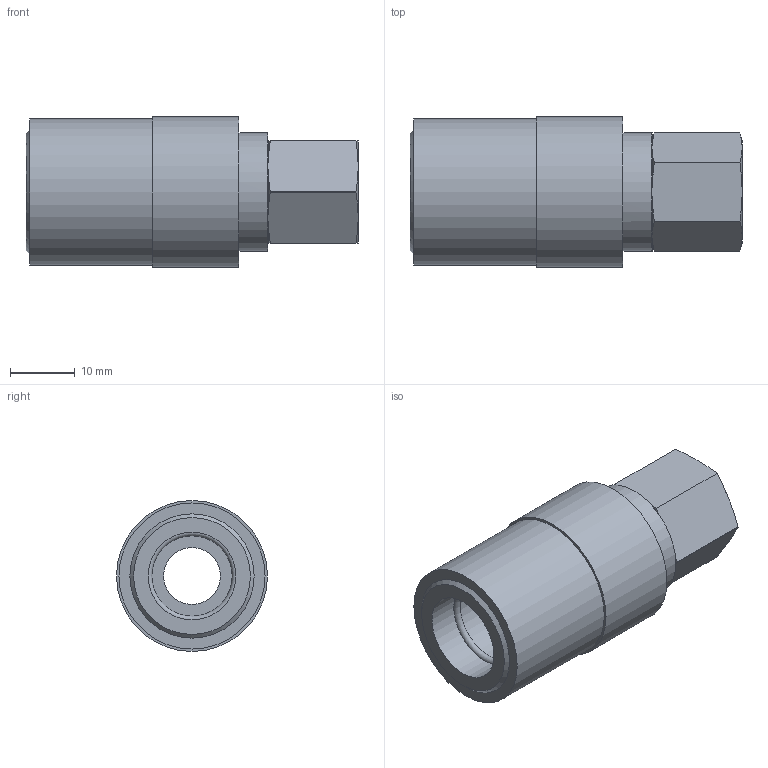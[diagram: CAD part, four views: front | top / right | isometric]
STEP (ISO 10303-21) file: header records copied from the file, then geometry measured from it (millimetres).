
FILE_DESCRIPTION(/* description */ ('STEP AP214'),/* implementation_level */ '2;1');
FILE_NAME(/* name */ 'JS-300-V',/* time_stamp */ '2024-12-19T08:59:31+01:00',/* author */ ('License CC BY-ND 4.0'),/* organization */ ('CADENAS'),/* preprocessor_version */ 'ST-DEVELOPER v19.3',/* originating_system */ 'PARTsolutions',/* authorisation */ ' ');
FILE_SCHEMA (('AUTOMOTIVE_DESIGN {1 0 10303 214 3 1 1}'));
Length unit declared in the file: inch
Products named in the file (1): JS-300-V
Bounding box: 51.37 x 23.37 x 23.37 mm (x, y, z)
Volume: 12697.9 mm3; surface area: 5874.2 mm2
Topology: 1 solids, 1 shells, 48 faces, 120 edges, 78 vertices
Faces by surface type: plane 23, cone 16, cylinder 8, torus 1
Full cylindrical faces by diameter (mm): 8.797 x1, 10.866 x1, 13.564 x2, 18.334 x1, 22.606 x1, 23.368 x1
Entity records: 1424 total; most frequent: CARTESIAN_POINT 317, ORIENTED_EDGE 214, DIRECTION 210, EDGE_CURVE 107, AXIS2_PLACEMENT_3D 82, VERTEX_POINT 77, EDGE_LOOP 66, FACE_BOUND 66
